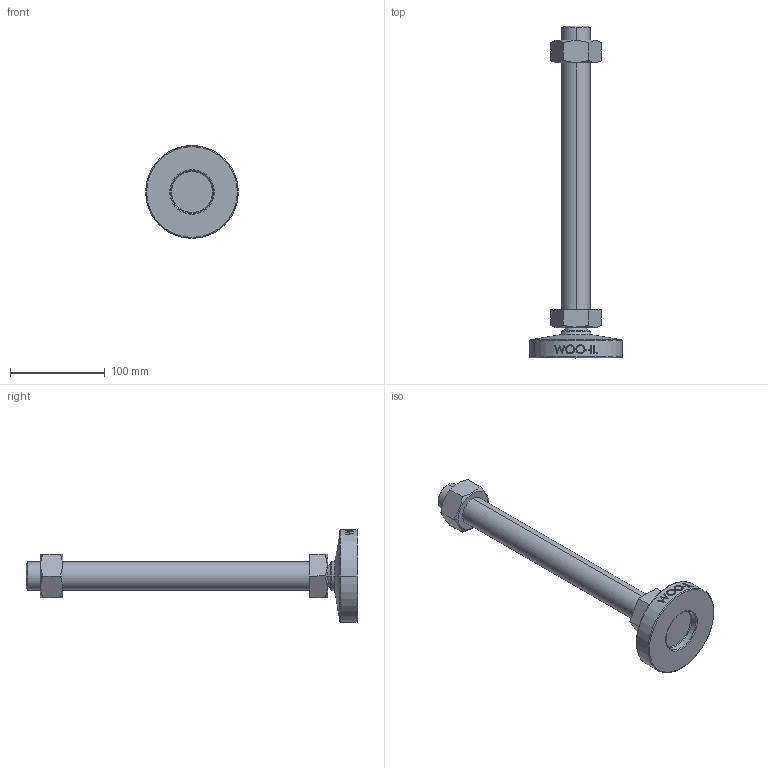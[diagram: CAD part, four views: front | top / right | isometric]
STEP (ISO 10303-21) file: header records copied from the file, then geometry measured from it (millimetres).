
FILE_DESCRIPTION (( 'STEP AP214' ), '1' );
FILE_NAME ('MFN98-M30-300.step', '2021-01-19T06:32:15', ( '' ), ( '' ), 'SwSTEP 2.0', 'SolidWorks 2019', '' );
FILE_SCHEMA (( 'AUTOMOTIVE_DESIGN' ));
Length unit declared in the file: millimetre
Products named in the file (2): MFN98-M30-300
Bounding box: 98 x 351 x 98 mm (x, y, z)
Volume: 428009.8 mm3; surface area: 64221.6 mm2
Topology: 2 solids, 2 shells, 107 faces, 247 edges, 156 vertices
Faces by surface type: plane 47, cone 18, cylinder 16, bspline 16, torus 8, sphere 2
Entity records: 4647 total; most frequent: CARTESIAN_POINT 2280, ORIENTED_EDGE 494, DIRECTION 447, EDGE_CURVE 247, AXIS2_PLACEMENT_3D 173, VERTEX_POINT 156, EDGE_LOOP 121, FACE_OUTER_BOUND 107
